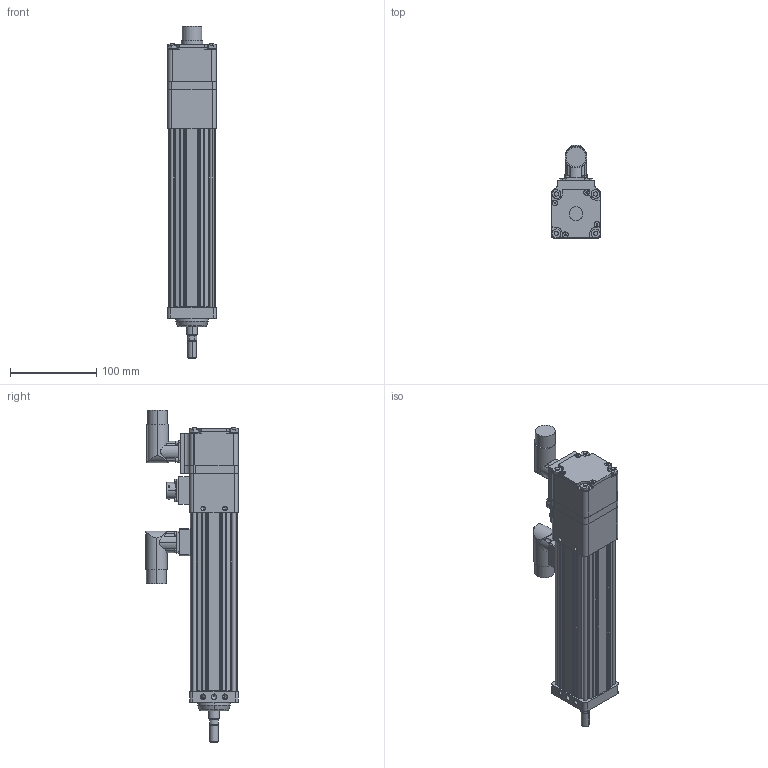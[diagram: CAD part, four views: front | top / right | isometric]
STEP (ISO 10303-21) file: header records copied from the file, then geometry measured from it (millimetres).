
FILE_DESCRIPTION (( 'STEP AP203' ), '1' );
FILE_NAME ('GSM20-6 inch Double Side Mount, Euro Conn, M Rod, RB.step', '2008-05-29T10:35:40', ( 'SaharaKiran' ), ( 'I2T2' ), 'SwSTEP 2.0', 'SolidWorks 2008', '' );
FILE_SCHEMA (( 'CONFIG_CONTROL_DESIGN' ));
Length unit declared in the file: inch
Products named in the file (20): 19738; MAIN ROD_M-MAIN ROD-6 inch; 31335; END CAP_31199; REAR BRAKE_31206; 12709; 12710; 12692; GSM20-6 inch Double Side Mount, Euro Conn, M Rod, RB; CYLINDER_31367-6 inch; CASE_31193-6 inch; END CAP_DSM-31199-EURO-RB; 20528; 19819; 31603; 12367; 31527_90585A200; 20494; 11028; TieRod_14395-6"
Assembly tree (43 placements, depth 3):
  GSM20-6 inch Double Side Mount, Euro Conn, M Rod, RB
    31603
    MAIN ROD_M-MAIN ROD-6 inch
    CYLINDER_31367-6 inch
    12709  x4
    12692  x2
    TieRod_14395-6"  x4
    12367  x4
    CASE_31193-6 inch
    19819
    12710  x4
    19738
    END CAP_DSM-31199-EURO-RB
      12367  x8
      31527_90585A200  x4
      END CAP_31199
      11028
      31335
      20494
      REAR BRAKE_31206
    20528
Bounding box: 56.9 x 108.01 x 385.59 mm (x, y, z)
Volume: 589003.2 mm3; surface area: 277440.3 mm2
Topology: 42 solids, 42 shells, 1808 faces, 4272 edges, 2608 vertices
Faces by surface type: cylinder 796, plane 548, cone 384, torus 64, sphere 16
Entity records: 41328 total; most frequent: CARTESIAN_POINT 8399, DIRECTION 6818, ORIENTED_EDGE 5908, EDGE_CURVE 2954, AXIS2_PLACEMENT_3D 2725, VERTEX_POINT 1889, EDGE_LOOP 1493, CIRCLE 1438
